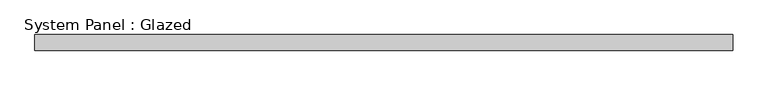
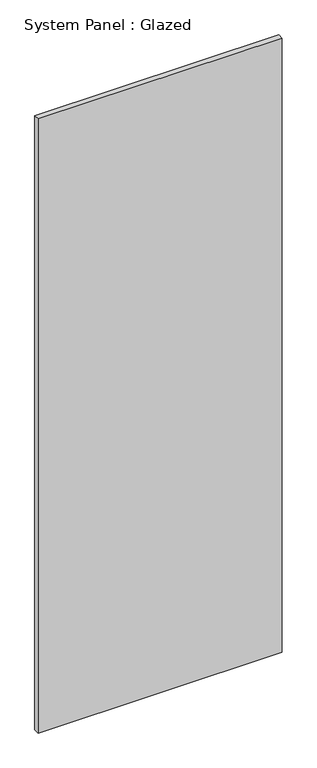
"""IFC4 building model written with IfcOpenShell, lengths in millimetres: plate geometry, System Panel : Glazed."""

from ifc_helpers import new_model, si_unit, origin, origin_with_axes, place, context, project, spatial, polyline, outline, extrude, source, transform, mapped, element, save


def system_panel_glazed_912d3682(model_context):
    return source(origin(), model_context, "Body", "SweptSolid", [
        extrude(outline(polyline([(550.0000001, 24.5), (-550.0000001, 24.5), (-550.0000001, 49.5), (550.0000001, 49.5), (550.0000001, 24.5)])), origin_with_axes(), (0.0, 0.0, 1.0), 2925.0),
    ])


if __name__ == "__main__":
    model = new_model("IFC4")
    model_context = context("Model", 3, world=origin())
    ifc_project = project(units=[si_unit("LENGTHUNIT", "METRE", prefix="MILLI")], contexts=[model_context])
    site = spatial("IfcSite", under=ifc_project)
    building = spatial("IfcBuilding", under=site)
    placement = place(None, origin())
    system_panel_glazed_shape = system_panel_glazed_912d3682(model_context)
    element("IfcPlate", 1, ObjectType="System Panel : Glazed", at=placement, inside=building, context=model_context, shape_type="MappedRepresentation", body=[
        mapped(system_panel_glazed_shape, transform((0.0, 0.0, 0.0), x_axis=(1.0, 0.0, 0.0), y_axis=(0.0, 1.0, 0.0), z_axis=(0.0, 0.0, 1.0))),
    ])
    save(model, "model.ifc")
